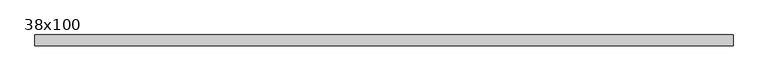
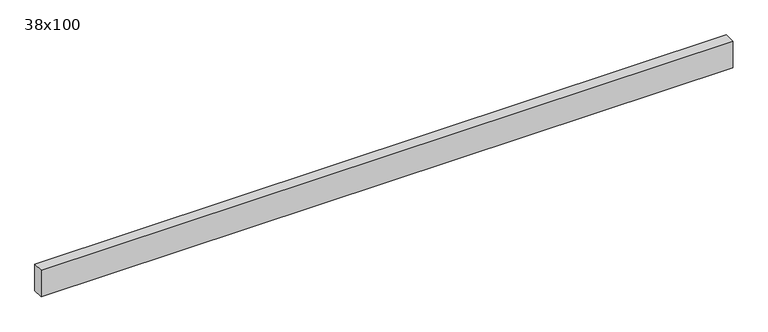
"""IFC4 building model written with IfcOpenShell, lengths in millimetres: beam geometry, Poutre - Bois de construction de dimensions courantes : 38x100."""

from ifc_helpers import new_model, si_unit, frame, origin, place, context, project, spatial, polyline, outline, extrude, source, transform, mapped, element, save


def beam_38x100_3ca9cf83(model_context):
    return source(origin(), model_context, "Body", "SweptSolid", [
        extrude(outline(polyline([(1232.0, 19.05), (1232.0, -19.05), (-1232.0, -19.05), (-1232.0, 19.05), (1232.0, 19.05)])), frame((0.0, 0.0, -50.0), z_axis=(0.0, 0.0, 1.0), x_axis=(1.0, 0.0, 0.0)), (0.0, 0.0, 1.0), 100.0),
    ])


if __name__ == "__main__":
    model = new_model("IFC4")
    model_context = context("Model", 3, world=origin())
    ifc_project = project(units=[si_unit("LENGTHUNIT", "METRE", prefix="MILLI")], contexts=[model_context])
    site = spatial("IfcSite", under=ifc_project)
    building = spatial("IfcBuilding", under=site)
    placement = place(None, origin())
    beam_38x100_shape = beam_38x100_3ca9cf83(model_context)
    element("IfcBeam", 1, ObjectType="Poutre - Bois de construction de dimensions courantes : 38x100", at=placement, inside=building, context=model_context, shape_type="MappedRepresentation", body=[
        mapped(beam_38x100_shape, transform((0.0, 0.0, 0.0), x_axis=(1.0, 0.0, 0.0), y_axis=(0.0, 1.0, 0.0), z_axis=(0.0, 0.0, 1.0))),
    ])
    save(model, "model.ifc")
